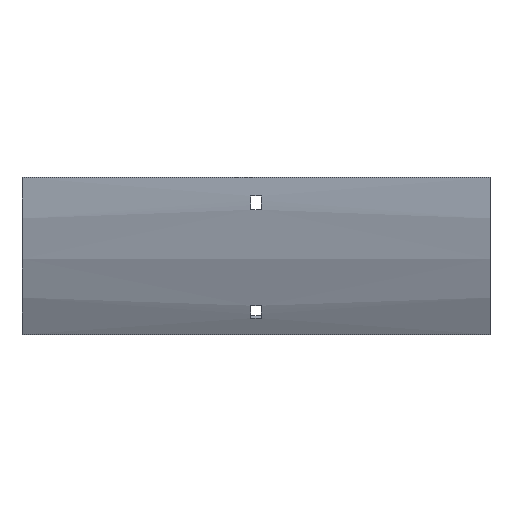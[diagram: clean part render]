
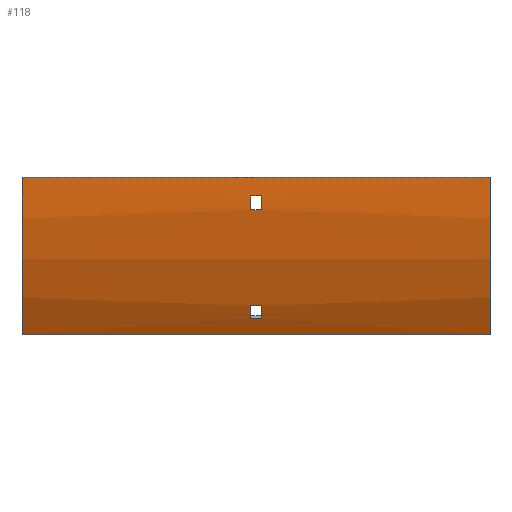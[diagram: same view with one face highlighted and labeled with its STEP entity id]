
A CAD part, front view. The second image highlights one B-rep face of the part: STEP entity #118.
In plain terms, the highlighted cylindrical face has radius 204 mm (diameter 408 mm), a partial arc.
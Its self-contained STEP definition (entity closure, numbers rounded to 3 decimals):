
#18 = CIRCLE ( 'NONE', #1422, 204. ) ;
#23 = DIRECTION ( 'NONE',  ( 1., 0., 0. ) ) ;
#26 = CIRCLE ( 'NONE', #1228, 204. ) ;
#28 = DIRECTION ( 'NONE',  ( -1., 0., 0. ) ) ;
#60 = DIRECTION ( 'NONE',  ( -1., 0., 0. ) ) ;
#71 = VECTOR ( 'NONE', #28, 1000. ) ;
#82 = CARTESIAN_POINT ( 'NONE',  ( -3.25, -102.916, -21. ) ) ;
#88 = ORIENTED_EDGE ( 'NONE', *, *, #459, .T. ) ;
#100 = EDGE_CURVE ( 'NONE', #1643, #225, #1133, .T. ) ;
#118 = ADVANCED_FACE ( 'NONE', ( #1065, #1601, #1187 ), #680, .T. ) ;
#172 = AXIS2_PLACEMENT_3D ( 'NONE', #1627, #1490, #1078 ) ;
#176 = EDGE_LOOP ( 'NONE', ( #1659, #1236, #357, #747 ) ) ;
#178 = CARTESIAN_POINT ( 'NONE',  ( -152., -104., 0. ) ) ;
#194 = VERTEX_POINT ( 'NONE', #1405 ) ;
#207 = VERTEX_POINT ( 'NONE', #1108 ) ;
#225 = VERTEX_POINT ( 'NONE', #1469 ) ;
#232 = CARTESIAN_POINT ( 'NONE',  ( 152., -86.231, -83.272 ) ) ;
#236 = EDGE_LOOP ( 'NONE', ( #419, #1589, #949, #370 ) ) ;
#293 = ORIENTED_EDGE ( 'NONE', *, *, #711, .T. ) ;
#295 = CARTESIAN_POINT ( 'NONE',  ( 3.25, -86.231, -83.272 ) ) ;
#303 = EDGE_CURVE ( 'NONE', #207, #1006, #26, .T. ) ;
#308 = DIRECTION ( 'NONE',  ( 0., 0., 1. ) ) ;
#357 = ORIENTED_EDGE ( 'NONE', *, *, #1382, .F. ) ;
#367 = CARTESIAN_POINT ( 'NONE',  ( 152., -76.669, -102. ) ) ;
#369 = VECTOR ( 'NONE', #578, 1000. ) ;
#370 = ORIENTED_EDGE ( 'NONE', *, *, #950, .T. ) ;
#388 = EDGE_CURVE ( 'NONE', #1387, #470, #947, .T. ) ;
#398 = DIRECTION ( 'NONE',  ( 0., 0., -1. ) ) ;
#419 = ORIENTED_EDGE ( 'NONE', *, *, #388, .T. ) ;
#459 = EDGE_CURVE ( 'NONE', #492, #225, #1497, .T. ) ;
#470 = VERTEX_POINT ( 'NONE', #82 ) ;
#492 = VERTEX_POINT ( 'NONE', #178 ) ;
#525 = CARTESIAN_POINT ( 'NONE',  ( 152., -104., 0. ) ) ;
#537 = CARTESIAN_POINT ( 'NONE',  ( -3.25, 100., 0. ) ) ;
#568 = CARTESIAN_POINT ( 'NONE',  ( 152., -104., 0. ) ) ;
#572 = AXIS2_PLACEMENT_3D ( 'NONE', #1427, #922, #1448 ) ;
#578 = DIRECTION ( 'NONE',  ( 1., 0., 0. ) ) ;
#680 = CYLINDRICAL_SURFACE ( 'NONE', #1226, 204. ) ;
#687 = VECTOR ( 'NONE', #1047, 1000. ) ;
#695 = CARTESIAN_POINT ( 'NONE',  ( 152., -103.647, -12. ) ) ;
#698 = VECTOR ( 'NONE', #798, 1000. ) ;
#711 = EDGE_CURVE ( 'NONE', #744, #492, #1561, .T. ) ;
#733 = CARTESIAN_POINT ( 'NONE',  ( -3.25, -82.363, -91.431 ) ) ;
#744 = VERTEX_POINT ( 'NONE', #568 ) ;
#747 = ORIENTED_EDGE ( 'NONE', *, *, #820, .F. ) ;
#774 = CARTESIAN_POINT ( 'NONE',  ( 3.25, -102.916, -21. ) ) ;
#798 = DIRECTION ( 'NONE',  ( -1., 0., 0. ) ) ;
#802 = VERTEX_POINT ( 'NONE', #1085 ) ;
#820 = EDGE_CURVE ( 'NONE', #1006, #194, #1095, .T. ) ;
#832 = EDGE_CURVE ( 'NONE', #744, #1643, #1034, .T. ) ;
#887 = ORIENTED_EDGE ( 'NONE', *, *, #100, .F. ) ;
#902 = DIRECTION ( 'NONE',  ( -1., 0., 0. ) ) ;
#922 = DIRECTION ( 'NONE',  ( -1., 0., 0. ) ) ;
#947 = LINE ( 'NONE', #1483, #71 ) ;
#949 = ORIENTED_EDGE ( 'NONE', *, *, #1324, .T. ) ;
#950 = EDGE_CURVE ( 'NONE', #1559, #1387, #1333, .T. ) ;
#970 = CARTESIAN_POINT ( 'NONE',  ( 152., -82.363, -91.431 ) ) ;
#989 = DIRECTION ( 'NONE',  ( 0., 0., -1. ) ) ;
#992 = CARTESIAN_POINT ( 'NONE',  ( 152., -76.669, -102. ) ) ;
#1005 = CARTESIAN_POINT ( 'NONE',  ( -152., 100., 0. ) ) ;
#1006 = VERTEX_POINT ( 'NONE', #733 ) ;
#1017 = VECTOR ( 'NONE', #902, 1000. ) ;
#1032 = CIRCLE ( 'NONE', #572, 204. ) ;
#1034 = CIRCLE ( 'NONE', #1359, 204. ) ;
#1047 = DIRECTION ( 'NONE',  ( -1., 0., 0. ) ) ;
#1065 = FACE_OUTER_BOUND ( 'NONE', #1128, .T. ) ;
#1078 = DIRECTION ( 'NONE',  ( 0., 0., -1. ) ) ;
#1085 = CARTESIAN_POINT ( 'NONE',  ( -3.25, -103.647, -12. ) ) ;
#1086 = EDGE_CURVE ( 'NONE', #470, #802, #18, .T. ) ;
#1095 = LINE ( 'NONE', #970, #1159 ) ;
#1105 = CARTESIAN_POINT ( 'NONE',  ( 3.25, -103.647, -12. ) ) ;
#1108 = CARTESIAN_POINT ( 'NONE',  ( -3.25, -86.231, -83.272 ) ) ;
#1118 = CARTESIAN_POINT ( 'NONE',  ( 152., 100., 0. ) ) ;
#1128 = EDGE_LOOP ( 'NONE', ( #88, #887, #1218, #293 ) ) ;
#1133 = LINE ( 'NONE', #367, #1017 ) ;
#1135 = EDGE_CURVE ( 'NONE', #1669, #207, #1172, .T. ) ;
#1159 = VECTOR ( 'NONE', #23, 1000. ) ;
#1170 = AXIS2_PLACEMENT_3D ( 'NONE', #1005, #1239, #989 ) ;
#1172 = LINE ( 'NONE', #232, #687 ) ;
#1187 = FACE_BOUND ( 'NONE', #176, .T. ) ;
#1218 = ORIENTED_EDGE ( 'NONE', *, *, #832, .F. ) ;
#1226 = AXIS2_PLACEMENT_3D ( 'NONE', #1416, #60, #1545 ) ;
#1228 = AXIS2_PLACEMENT_3D ( 'NONE', #537, #1458, #398 ) ;
#1236 = ORIENTED_EDGE ( 'NONE', *, *, #1135, .F. ) ;
#1237 = DIRECTION ( 'NONE',  ( 0., 0., -1. ) ) ;
#1239 = DIRECTION ( 'NONE',  ( 1., 0., 0. ) ) ;
#1324 = EDGE_CURVE ( 'NONE', #802, #1559, #1380, .T. ) ;
#1333 = CIRCLE ( 'NONE', #172, 204. ) ;
#1359 = AXIS2_PLACEMENT_3D ( 'NONE', #1118, #1530, #1237 ) ;
#1380 = LINE ( 'NONE', #695, #369 ) ;
#1382 = EDGE_CURVE ( 'NONE', #194, #1669, #1032, .T. ) ;
#1387 = VERTEX_POINT ( 'NONE', #774 ) ;
#1405 = CARTESIAN_POINT ( 'NONE',  ( 3.25, -82.363, -91.431 ) ) ;
#1416 = CARTESIAN_POINT ( 'NONE',  ( 152., 100., 0. ) ) ;
#1422 = AXIS2_PLACEMENT_3D ( 'NONE', #1641, #1507, #308 ) ;
#1427 = CARTESIAN_POINT ( 'NONE',  ( 3.25, 100., 0. ) ) ;
#1448 = DIRECTION ( 'NONE',  ( 0., 0., 1. ) ) ;
#1458 = DIRECTION ( 'NONE',  ( 1., 0., 0. ) ) ;
#1469 = CARTESIAN_POINT ( 'NONE',  ( -152., -76.669, -102. ) ) ;
#1483 = CARTESIAN_POINT ( 'NONE',  ( 152., -102.916, -21. ) ) ;
#1490 = DIRECTION ( 'NONE',  ( 1., 0., 0. ) ) ;
#1497 = CIRCLE ( 'NONE', #1170, 204. ) ;
#1507 = DIRECTION ( 'NONE',  ( -1., 0., 0. ) ) ;
#1530 = DIRECTION ( 'NONE',  ( 1., 0., 0. ) ) ;
#1545 = DIRECTION ( 'NONE',  ( 0., 0., 1. ) ) ;
#1559 = VERTEX_POINT ( 'NONE', #1105 ) ;
#1561 = LINE ( 'NONE', #525, #698 ) ;
#1589 = ORIENTED_EDGE ( 'NONE', *, *, #1086, .T. ) ;
#1601 = FACE_BOUND ( 'NONE', #236, .T. ) ;
#1627 = CARTESIAN_POINT ( 'NONE',  ( 3.25, 100., 0. ) ) ;
#1641 = CARTESIAN_POINT ( 'NONE',  ( -3.25, 100., 0. ) ) ;
#1643 = VERTEX_POINT ( 'NONE', #992 ) ;
#1659 = ORIENTED_EDGE ( 'NONE', *, *, #303, .F. ) ;
#1669 = VERTEX_POINT ( 'NONE', #295 ) ;
